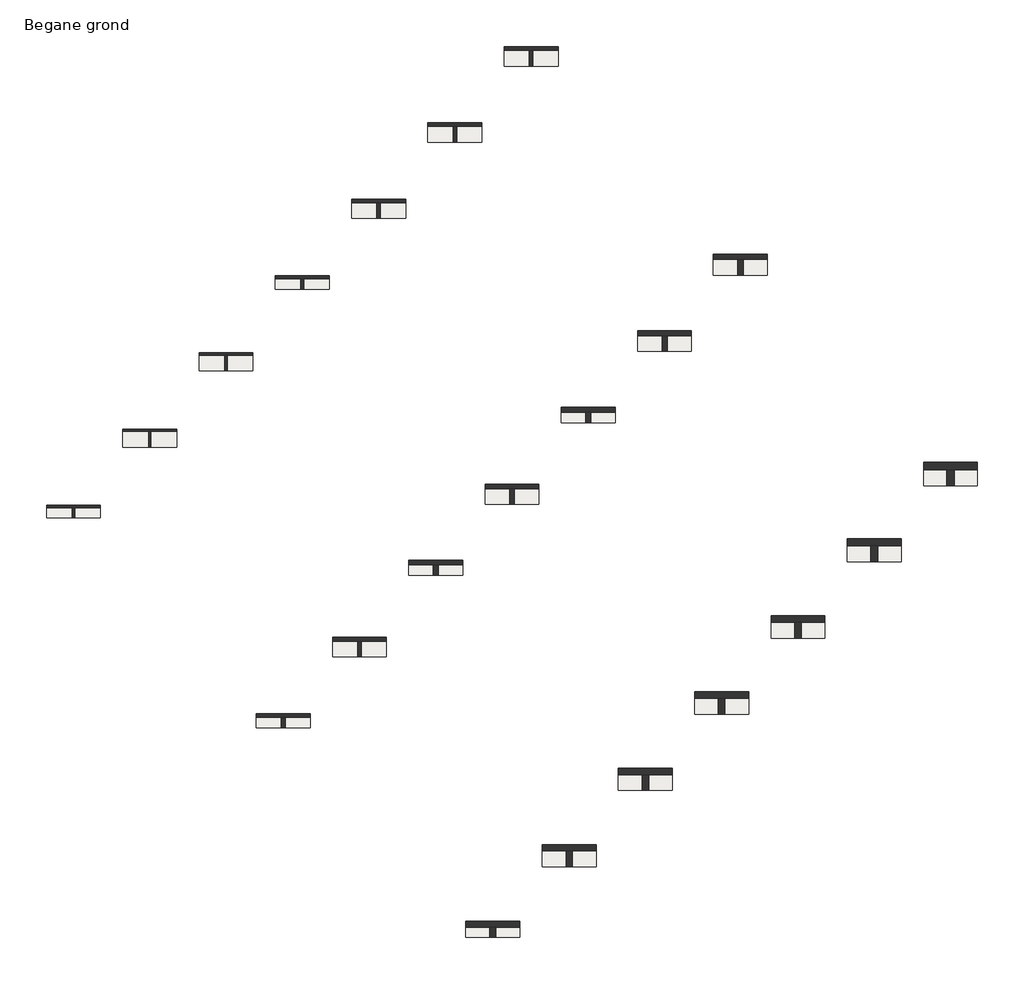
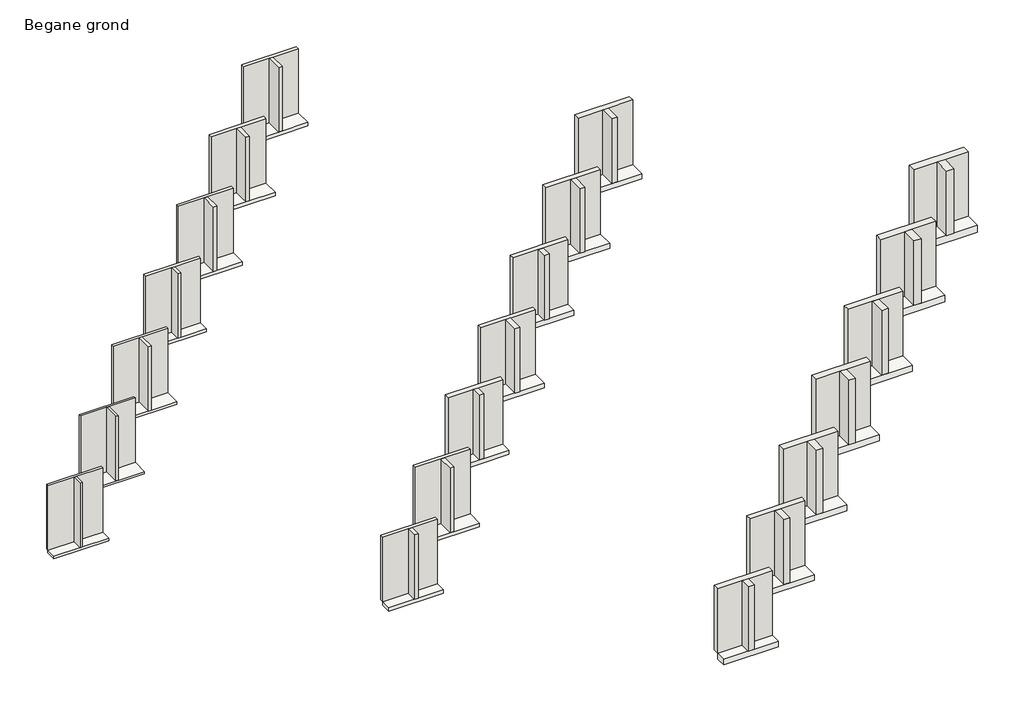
# One storey: 42 walls, 21 slabs.
"""IFC4 building model written with IfcOpenShell, lengths in millimetres."""

from ifc_helpers import new_model, si_unit, frame, origin, origin_with_axes, place, context, project, spatial, polyline, outline, extrude, element, save

model = new_model("IFC4")

# Units and contexts
model_context = context("Model", 3, world=origin())
ifc_project = project(units=[si_unit("LENGTHUNIT", "METRE", prefix="MILLI")], contexts=[model_context])

# Site, building, storey
site = spatial("IfcSite", under=ifc_project)
building = spatial("IfcBuilding", under=site)
storey = spatial("IfcBuildingStorey", under=building, Name="Begane grond", Elevation=0.0)

# Slabs
placement = place(None, origin())
element("IfcSlab", 1, ObjectType="NLRS_23_FL_Naturoll 035_90x380x7600mm", at=placement, inside=storey, context=model_context, shape_type="SweptSolid", body=[
    extrude(outline(polyline([(-2546.9892792, 4066.9143781), (-4546.9892792, 4066.9143781), (-4546.9892792, 4446.9143781), (-2546.9892792, 4446.9143781), (-2546.9892792, 4066.9143781)])), frame((0.0, 0.0, -90.0), z_axis=(0.0, 0.0, 1.0), x_axis=(1.0, 0.0, 0.0)), (0.0, 0.0, 1.0), 90.0),
])
element("IfcSlab", 2, ObjectType="NLRS_23_FL_Naturoll 035_90x580x7600mm", at=placement, inside=storey, context=model_context, shape_type="SweptSolid", body=[
    extrude(outline(polyline([(281.4378455, 6695.3415029), (-1718.5621545, 6695.3415029), (-1718.5621545, 7275.3415029), (281.4378455, 7275.3415029), (281.4378455, 6695.3415029)])), frame((0.0, 0.0, -90.0), z_axis=(0.0, 0.0, 1.0), x_axis=(1.0, 0.0, 0.0)), (0.0, 0.0, 1.0), 90.0),
])
element("IfcSlab", 3, ObjectType="NLRS_23_FL_Naturoll 035_100x580x7400mm", at=placement, inside=storey, context=model_context, shape_type="SweptSolid", body=[
    extrude(outline(polyline([(3109.8649703, 9523.7686276), (1109.8649703, 9523.7686276), (1109.8649703, 10103.7686276), (3109.8649703, 10103.7686276), (3109.8649703, 9523.7686276)])), frame((0.0, 0.0, -100.0), z_axis=(0.0, 0.0, 1.0), x_axis=(1.0, 0.0, 0.0)), (0.0, 0.0, 1.0), 100.0),
])
element("IfcSlab", 4, ObjectType="NLRS_23_FL_Naturoll 035_120x380x6200mm", at=placement, inside=storey, context=model_context, shape_type="SweptSolid", body=[
    extrude(outline(polyline([(5938.292095, 12552.1957524), (3938.292095, 12552.1957524), (3938.292095, 12932.1957524), (5938.292095, 12932.1957524), (5938.292095, 12552.1957524)])), frame((0.0, 0.0, -120.0), z_axis=(0.0, 0.0, 1.0), x_axis=(1.0, 0.0, 0.0)), (0.0, 0.0, 1.0), 120.0),
])
element("IfcSlab", 5, ObjectType="NLRS_23_FL_Naturoll 035_120x580x6200mm", at=placement, inside=storey, context=model_context, shape_type="SweptSolid", body=[
    extrude(outline(polyline([(8766.7192198, 15180.6228771), (6766.7192198, 15180.6228771), (6766.7192198, 15760.6228771), (8766.7192198, 15760.6228771), (8766.7192198, 15180.6228771)])), frame((0.0, 0.0, -120.0), z_axis=(0.0, 0.0, 1.0), x_axis=(1.0, 0.0, 0.0)), (0.0, 0.0, 1.0), 120.0),
])
element("IfcSlab", 6, ObjectType="NLRS_23_FL_Naturoll 035_130x590x5500mm", at=placement, inside=storey, context=model_context, shape_type="SweptSolid", body=[
    extrude(outline(polyline([(11595.1463445, 17999.0500019), (9595.1463445, 17999.0500019), (9595.1463445, 18589.0500019), (11595.1463445, 18589.0500019), (11595.1463445, 17999.0500019)])), frame((0.0, 0.0, -130.0), z_axis=(0.0, 0.0, 1.0), x_axis=(1.0, 0.0, 0.0)), (0.0, 0.0, 1.0), 130.0),
])
element("IfcSlab", 7, ObjectType="NLRS_23_FL_Naturoll 035_140x380x5300mm", at=placement, inside=storey, context=model_context, shape_type="SweptSolid", body=[
    extrude(outline(polyline([(5230.8651346, -3711.5803941), (3230.8651346, -3711.5803941), (3230.8651346, -3331.5803941), (5230.8651346, -3331.5803941), (5230.8651346, -3711.5803941)])), frame((0.0, 0.0, -140.0), z_axis=(0.0, 0.0, 1.0), x_axis=(1.0, 0.0, 0.0)), (0.0, 0.0, 1.0), 140.0),
])
element("IfcSlab", 8, ObjectType="NLRS_23_FL_Naturoll 035_140x580x5300mm", at=placement, inside=storey, context=model_context, shape_type="SweptSolid", body=[
    extrude(outline(polyline([(8059.2922594, -1083.1532694), (6059.2922594, -1083.1532694), (6059.2922594, -503.1532694), (8059.2922594, -503.1532694), (8059.2922594, -1083.1532694)])), frame((0.0, 0.0, -140.0), z_axis=(0.0, 0.0, 1.0), x_axis=(1.0, 0.0, 0.0)), (0.0, 0.0, 1.0), 140.0),
])
element("IfcSlab", 9, ObjectType="NLRS_23_FL_Naturoll 035_170x380x4350mm", at=placement, inside=storey, context=model_context, shape_type="SweptSolid", body=[
    extrude(outline(polyline([(10887.7193841, 1945.2738554), (8887.7193841, 1945.2738554), (8887.7193841, 2325.2738554), (10887.7193841, 2325.2738554), (10887.7193841, 1945.2738554)])), frame((0.0, 0.0, -170.0), z_axis=(0.0, 0.0, 1.0), x_axis=(1.0, 0.0, 0.0)), (0.0, 0.0, 1.0), 170.0),
])
element("IfcSlab", 10, ObjectType="NLRS_23_FL_Naturoll 035_170x580x4350mm", at=placement, inside=storey, context=model_context, shape_type="SweptSolid", body=[
    extrude(outline(polyline([(13716.1465089, 4573.7009801), (11716.1465089, 4573.7009801), (11716.1465089, 5153.7009801), (13716.1465089, 5153.7009801), (13716.1465089, 4573.7009801)])), frame((0.0, 0.0, -170.0), z_axis=(0.0, 0.0, 1.0), x_axis=(1.0, 0.0, 0.0)), (0.0, 0.0, 1.0), 170.0),
])
element("IfcSlab", 11, ObjectType="NLRS_23_FL_Naturoll 035_185x380x4000mm", at=placement, inside=storey, context=model_context, shape_type="SweptSolid", body=[
    extrude(outline(polyline([(16544.5736336, 7602.1281049), (14544.5736336, 7602.1281049), (14544.5736336, 7982.1281049), (16544.5736336, 7982.1281049), (16544.5736336, 7602.1281049)])), frame((0.0, 0.0, -185.0), z_axis=(0.0, 0.0, 1.0), x_axis=(1.0, 0.0, 0.0)), (0.0, 0.0, 1.0), 185.0),
])
element("IfcSlab", 12, ObjectType="NLRS_23_FL_Naturoll 035_200x580x3700mm", at=placement, inside=storey, context=model_context, shape_type="SweptSolid", body=[
    extrude(outline(polyline([(22189.3006542, 13077.6741056), (20189.3006542, 13077.6741056), (20189.3006542, 13657.6741056), (22189.3006542, 13657.6741056), (22189.3006542, 13077.6741056)])), frame((0.0, 0.0, -200.0), z_axis=(0.0, 0.0, 1.0), x_axis=(1.0, 0.0, 0.0)), (0.0, 0.0, 1.0), 200.0),
])
element("IfcSlab", 13, ObjectType="NLRS_23_FL_Naturoll 035_220x380x3400mm", at=placement, inside=storey, context=model_context, shape_type="SweptSolid", body=[
    extrude(outline(polyline([(13009.0397277, -11489.7549872), (11009.0397277, -11489.7549872), (11009.0397277, -11109.7549872), (13009.0397277, -11109.7549872), (13009.0397277, -11489.7549872)])), frame((0.0, 0.0, -220.0), z_axis=(0.0, 0.0, 1.0), x_axis=(1.0, 0.0, 0.0)), (0.0, 0.0, 1.0), 220.0),
])
element("IfcSlab", 14, ObjectType="NLRS_23_FL_Naturoll 035_220x580x3400mm", at=placement, inside=storey, context=model_context, shape_type="SweptSolid", body=[
    extrude(outline(polyline([(15837.4668524, -8861.3278624), (13837.4668524, -8861.3278624), (13837.4668524, -8281.3278624), (15837.4668524, -8281.3278624), (15837.4668524, -8861.3278624)])), frame((0.0, 0.0, -220.0), z_axis=(0.0, 0.0, 1.0), x_axis=(1.0, 0.0, 0.0)), (0.0, 0.0, 1.0), 220.0),
])
element("IfcSlab", 15, ObjectType="NLRS_23_FL_Naturoll 035_235x580x3100mm", at=placement, inside=storey, context=model_context, shape_type="SweptSolid", body=[
    extrude(outline(polyline([(18665.8939772, -6032.9007377), (16665.8939772, -6032.9007377), (16665.8939772, -5452.9007377), (18665.8939772, -5452.9007377), (18665.8939772, -6032.9007377)])), frame((0.0, 0.0, -235.0), z_axis=(0.0, 0.0, 1.0), x_axis=(1.0, 0.0, 0.0)), (0.0, 0.0, 1.0), 235.0),
])
element("IfcSlab", 16, ObjectType="NLRS_23_FL_Naturoll 035_240x580x3100mm", at=placement, inside=storey, context=model_context, shape_type="SweptSolid", body=[
    extrude(outline(polyline([(21494.3211019, -3204.4736129), (19494.3211019, -3204.4736129), (19494.3211019, -2624.4736129), (21494.3211019, -2624.4736129), (21494.3211019, -3204.4736129)])), frame((0.0, 0.0, -240.0), z_axis=(0.0, 0.0, 1.0), x_axis=(1.0, 0.0, 0.0)), (0.0, 0.0, 1.0), 240.0),
])
element("IfcSlab", 17, ObjectType="NLRS_23_FL_Naturoll 035_270x590x2600mm", at=placement, inside=storey, context=model_context, shape_type="SweptSolid", body=[
    extrude(outline(polyline([(29979.6024762, 5270.8077613), (27979.6024762, 5270.8077613), (27979.6024762, 5860.8077613), (29979.6024762, 5860.8077613), (29979.6024762, 5270.8077613)])), frame((0.0, 0.0, -270.0), z_axis=(0.0, 0.0, 1.0), x_axis=(1.0, 0.0, 0.0)), (0.0, 0.0, 1.0), 270.0),
])
element("IfcSlab", 18, ObjectType="NLRS_23_FL_Naturoll 035_185x580x4000mm", at=placement, inside=storey, context=model_context, shape_type="SweptSolid", body=[
    extrude(outline(polyline([(19373.0007584, 10245.5552296), (17373.0007584, 10245.5552296), (17373.0007584, 10825.5552296), (19373.0007584, 10825.5552296), (19373.0007584, 10245.5552296)])), frame((0.0, 0.0, -185.0), z_axis=(0.0, 0.0, 1.0), x_axis=(1.0, 0.0, 0.0)), (0.0, 0.0, 1.0), 185.0),
])
element("IfcSlab", 19, ObjectType="NLRS_23_FL_Naturoll 035_135x590x5300mm", at=placement, inside=storey, context=model_context, shape_type="SweptSolid", body=[
    extrude(outline(polyline([(14423.5734693, 20827.4771266), (12423.5734693, 20827.4771266), (12423.5734693, 21417.4771266), (14423.5734693, 21417.4771266), (14423.5734693, 20827.4771266)])), frame((0.0, 0.0, -135.0), z_axis=(0.0, 0.0, 1.0), x_axis=(1.0, 0.0, 0.0)), (0.0, 0.0, 1.0), 135.0),
])
element("IfcSlab", 20, ObjectType="NLRS_23_FL_Naturoll 035_260x590x2700mm", at=placement, inside=storey, context=model_context, shape_type="SweptSolid", body=[
    extrude(outline(polyline([(27151.1753514, 2442.3806366), (25151.1753514, 2442.3806366), (25151.1753514, 3032.3806366), (27151.1753514, 3032.3806366), (27151.1753514, 2442.3806366)])), frame((0.0, 0.0, -260.0), z_axis=(0.0, 0.0, 1.0), x_axis=(1.0, 0.0, 0.0)), (0.0, 0.0, 1.0), 260.0),
])
element("IfcSlab", 21, ObjectType="NLRS_23_FL_Naturoll 035_245x590x2600mm", at=placement, inside=storey, context=model_context, shape_type="SweptSolid", body=[
    extrude(outline(polyline([(24322.7482267, -386.0464882), (22322.7482267, -386.0464882), (22322.7482267, 203.9535118), (24322.7482267, 203.9535118), (24322.7482267, -386.0464882)])), frame((0.0, 0.0, -245.0), z_axis=(0.0, 0.0, 1.0), x_axis=(1.0, 0.0, 0.0)), (0.0, 0.0, 1.0), 245.0),
])

# Walls
element("IfcWall", 22, ObjectType="NLRS_21_WA_Naturoll 035_90x380x7600mm", at=placement, inside=storey, context=model_context, shape_type="SweptSolid", body=[
    extrude(outline(polyline([(-2546.9892792, 4446.9143781), (-4546.9892792, 4446.9143781), (-4546.9892792, 4536.9143781), (-2546.9892792, 4536.9143781), (-2546.9892792, 4446.9143781)])), origin_with_axes(), (0.0, 0.0, 1.0), 2500.0),
])
element("IfcWall", 23, ObjectType="NLRS_21_WA_Naturoll 035_90x380x7600mm", at=placement, inside=storey, context=model_context, shape_type="SweptSolid", body=[
    extrude(outline(polyline([(-3591.9892792, 4066.9143781), (-3591.9892792, 4446.9143781), (-3501.9892792, 4446.9143781), (-3501.9892792, 4066.9143781), (-3591.9892792, 4066.9143781)])), origin_with_axes(), (0.0, 0.0, 1.0), 2500.0),
])
element("IfcWall", 24, ObjectType="NLRS_21_WA_Naturoll 035_90x580x7600mm", at=placement, inside=storey, context=model_context, shape_type="SweptSolid", body=[
    extrude(outline(polyline([(281.4378455, 7275.3415029), (-1718.5621545, 7275.3415029), (-1718.5621545, 7365.3415029), (281.4378455, 7365.3415029), (281.4378455, 7275.3415029)])), origin_with_axes(), (0.0, 0.0, 1.0), 2500.0),
])
element("IfcWall", 25, ObjectType="NLRS_21_WA_Naturoll 035_90x580x7600mm", at=placement, inside=storey, context=model_context, shape_type="SweptSolid", body=[
    extrude(outline(polyline([(-763.5621545, 6695.3415029), (-763.5621545, 7275.3415029), (-673.5621545, 7275.3415029), (-673.5621545, 6695.3415029), (-763.5621545, 6695.3415029)])), origin_with_axes(), (0.0, 0.0, 1.0), 2500.0),
])
element("IfcWall", 26, ObjectType="NLRS_21_WA_Naturoll 035_100x580x7400mm", at=placement, inside=storey, context=model_context, shape_type="SweptSolid", body=[
    extrude(outline(polyline([(3109.8649703, 10103.7686276), (1109.8649703, 10103.7686276), (1109.8649703, 10203.7686276), (3109.8649703, 10203.7686276), (3109.8649703, 10103.7686276)])), origin_with_axes(), (0.0, 0.0, 1.0), 2500.0),
])
element("IfcWall", 27, ObjectType="NLRS_21_WA_Naturoll 035_100x580x7400mm", at=placement, inside=storey, context=model_context, shape_type="SweptSolid", body=[
    extrude(outline(polyline([(2059.8649703, 9523.7686276), (2059.8649703, 10103.7686276), (2159.8649703, 10103.7686276), (2159.8649703, 9523.7686276), (2059.8649703, 9523.7686276)])), origin_with_axes(), (0.0, 0.0, 1.0), 2500.0),
])
element("IfcWall", 28, ObjectType="NLRS_21_WA_Naturoll 035_120x380x6200mm", at=placement, inside=storey, context=model_context, shape_type="SweptSolid", body=[
    extrude(outline(polyline([(5938.292095, 12932.1957524), (3938.292095, 12932.1957524), (3938.292095, 13052.1957524), (5938.292095, 13052.1957524), (5938.292095, 12932.1957524)])), origin_with_axes(), (0.0, 0.0, 1.0), 2500.0),
])
element("IfcWall", 29, ObjectType="NLRS_21_WA_Naturoll 035_120x380x6200mm", at=placement, inside=storey, context=model_context, shape_type="SweptSolid", body=[
    extrude(outline(polyline([(4878.292095, 12552.1957524), (4878.292095, 12932.1957524), (4998.292095, 12932.1957524), (4998.292095, 12552.1957524), (4878.292095, 12552.1957524)])), origin_with_axes(), (0.0, 0.0, 1.0), 2500.0),
])
element("IfcWall", 30, ObjectType="NLRS_21_WA_Naturoll 035_120x580x6200mm", at=placement, inside=storey, context=model_context, shape_type="SweptSolid", body=[
    extrude(outline(polyline([(8766.7192198, 15760.6228771), (6766.7192198, 15760.6228771), (6766.7192198, 15880.6228771), (8766.7192198, 15880.6228771), (8766.7192198, 15760.6228771)])), origin_with_axes(), (0.0, 0.0, 1.0), 2500.0),
])
element("IfcWall", 31, ObjectType="NLRS_21_WA_Naturoll 035_120x580x6200mm", at=placement, inside=storey, context=model_context, shape_type="SweptSolid", body=[
    extrude(outline(polyline([(7706.7192198, 15180.6228771), (7706.7192198, 15760.6228771), (7826.7192198, 15760.6228771), (7826.7192198, 15180.6228771), (7706.7192198, 15180.6228771)])), origin_with_axes(), (0.0, 0.0, 1.0), 2500.0),
])
element("IfcWall", 32, ObjectType="NLRS_21_WA_Naturoll 035_130x590x5500mm", at=placement, inside=storey, context=model_context, shape_type="SweptSolid", body=[
    extrude(outline(polyline([(11595.1463445, 18589.0500019), (9595.1463445, 18589.0500019), (9595.1463445, 18719.0500019), (11595.1463445, 18719.0500019), (11595.1463445, 18589.0500019)])), origin_with_axes(), (0.0, 0.0, 1.0), 2500.0),
])
element("IfcWall", 33, ObjectType="NLRS_21_WA_Naturoll 035_130x590x5500mm", at=placement, inside=storey, context=model_context, shape_type="SweptSolid", body=[
    extrude(outline(polyline([(10530.1463445, 17999.0500019), (10530.1463445, 18589.0500019), (10660.1463445, 18589.0500019), (10660.1463445, 17999.0500019), (10530.1463445, 17999.0500019)])), origin_with_axes(), (0.0, 0.0, 1.0), 2500.0),
])
element("IfcWall", 34, ObjectType="NLRS_21_WA_Naturoll 035_140x380x5300mm", at=placement, inside=storey, context=model_context, shape_type="SweptSolid", body=[
    extrude(outline(polyline([(5230.8651346, -3331.5803941), (3230.8651346, -3331.5803941), (3230.8651346, -3191.5803941), (5230.8651346, -3191.5803941), (5230.8651346, -3331.5803941)])), origin_with_axes(), (0.0, 0.0, 1.0), 2500.0),
])
element("IfcWall", 35, ObjectType="NLRS_21_WA_Naturoll 035_140x380x5300mm", at=placement, inside=storey, context=model_context, shape_type="SweptSolid", body=[
    extrude(outline(polyline([(4160.8651346, -3711.5803941), (4160.8651346, -3331.5803941), (4300.8651346, -3331.5803941), (4300.8651346, -3711.5803941), (4160.8651346, -3711.5803941)])), origin_with_axes(), (0.0, 0.0, 1.0), 2500.0),
])
element("IfcWall", 36, ObjectType="NLRS_21_WA_Naturoll 035_140x580x5300mm", at=placement, inside=storey, context=model_context, shape_type="SweptSolid", body=[
    extrude(outline(polyline([(8059.2922594, -503.1532694), (6059.2922594, -503.1532694), (6059.2922594, -363.1532694), (8059.2922594, -363.1532694), (8059.2922594, -503.1532694)])), origin_with_axes(), (0.0, 0.0, 1.0), 2500.0),
])
element("IfcWall", 37, ObjectType="NLRS_21_WA_Naturoll 035_140x580x5300mm", at=placement, inside=storey, context=model_context, shape_type="SweptSolid", body=[
    extrude(outline(polyline([(6989.2922594, -1083.1532694), (6989.2922594, -503.1532694), (7129.2922594, -503.1532694), (7129.2922594, -1083.1532694), (6989.2922594, -1083.1532694)])), origin_with_axes(), (0.0, 0.0, 1.0), 2500.0),
])
element("IfcWall", 38, ObjectType="NLRS_21_WA_Naturoll 035_170x380x4350mm", at=placement, inside=storey, context=model_context, shape_type="SweptSolid", body=[
    extrude(outline(polyline([(10887.7193841, 2325.2738554), (8887.7193841, 2325.2738554), (8887.7193841, 2495.2738554), (10887.7193841, 2495.2738554), (10887.7193841, 2325.2738554)])), origin_with_axes(), (0.0, 0.0, 1.0), 2500.0),
])
element("IfcWall", 39, ObjectType="NLRS_21_WA_Naturoll 035_170x380x4350mm", at=placement, inside=storey, context=model_context, shape_type="SweptSolid", body=[
    extrude(outline(polyline([(9802.7193841, 1945.2738554), (9802.7193841, 2325.2738554), (9972.7193841, 2325.2738554), (9972.7193841, 1945.2738554), (9802.7193841, 1945.2738554)])), origin_with_axes(), (0.0, 0.0, 1.0), 2500.0),
])
element("IfcWall", 40, ObjectType="NLRS_21_WA_Naturoll 035_170x580x4350mm", at=placement, inside=storey, context=model_context, shape_type="SweptSolid", body=[
    extrude(outline(polyline([(13716.1465089, 5153.7009801), (11716.1465089, 5153.7009801), (11716.1465089, 5323.7009801), (13716.1465089, 5323.7009801), (13716.1465089, 5153.7009801)])), origin_with_axes(), (0.0, 0.0, 1.0), 2500.0),
])
element("IfcWall", 41, ObjectType="NLRS_21_WA_Naturoll 035_170x580x4350mm", at=placement, inside=storey, context=model_context, shape_type="SweptSolid", body=[
    extrude(outline(polyline([(12631.1465089, 4573.7009801), (12631.1465089, 5153.7009801), (12801.1465089, 5153.7009801), (12801.1465089, 4573.7009801), (12631.1465089, 4573.7009801)])), origin_with_axes(), (0.0, 0.0, 1.0), 2500.0),
])
element("IfcWall", 42, ObjectType="NLRS_21_WA_Naturoll 035_185x380x4000mm", at=placement, inside=storey, context=model_context, shape_type="SweptSolid", body=[
    extrude(outline(polyline([(16544.5736336, 7982.1281049), (14544.5736336, 7982.1281049), (14544.5736336, 8167.1281049), (16544.5736336, 8167.1281049), (16544.5736336, 7982.1281049)])), origin_with_axes(), (0.0, 0.0, 1.0), 2500.0),
])
element("IfcWall", 43, ObjectType="NLRS_21_WA_Naturoll 035_185x380x4000mm", at=placement, inside=storey, context=model_context, shape_type="SweptSolid", body=[
    extrude(outline(polyline([(15452.0736336, 7602.1281049), (15452.0736336, 7982.1281049), (15637.0736336, 7982.1281049), (15637.0736336, 7602.1281049), (15452.0736336, 7602.1281049)])), origin_with_axes(), (0.0, 0.0, 1.0), 2500.0),
])
element("IfcWall", 44, ObjectType="NLRS_21_WA_Naturoll 035_200x580x3700mm", at=placement, inside=storey, context=model_context, shape_type="SweptSolid", body=[
    extrude(outline(polyline([(22189.3006542, 13657.6741056), (20189.3006542, 13657.6741056), (20189.3006542, 13857.6741056), (22189.3006542, 13857.6741056), (22189.3006542, 13657.6741056)])), origin_with_axes(), (0.0, 0.0, 1.0), 2500.0),
])
element("IfcWall", 45, ObjectType="NLRS_21_WA_Naturoll 035_200x580x3700mm", at=placement, inside=storey, context=model_context, shape_type="SweptSolid", body=[
    extrude(outline(polyline([(21089.3006542, 13077.6741056), (21089.3006542, 13657.6741056), (21289.3006542, 13657.6741056), (21289.3006542, 13077.6741056), (21089.3006542, 13077.6741056)])), origin_with_axes(), (0.0, 0.0, 1.0), 2500.0),
])
element("IfcWall", 46, ObjectType="NLRS_21_WA_Naturoll 035_220x380x3400mm", at=placement, inside=storey, context=model_context, shape_type="SweptSolid", body=[
    extrude(outline(polyline([(13009.0397277, -11109.7549872), (11009.0397277, -11109.7549872), (11009.0397277, -10889.7549872), (13009.0397277, -10889.7549872), (13009.0397277, -11109.7549872)])), origin_with_axes(), (0.0, 0.0, 1.0), 2500.0),
])
element("IfcWall", 47, ObjectType="NLRS_21_WA_Naturoll 035_220x380x3400mm", at=placement, inside=storey, context=model_context, shape_type="SweptSolid", body=[
    extrude(outline(polyline([(11899.0397277, -11489.7549872), (11899.0397277, -11109.7549872), (12119.0397277, -11109.7549872), (12119.0397277, -11489.7549872), (11899.0397277, -11489.7549872)])), origin_with_axes(), (0.0, 0.0, 1.0), 2500.0),
])
element("IfcWall", 48, ObjectType="NLRS_21_WA_Naturoll 035_220x580x3400mm", at=placement, inside=storey, context=model_context, shape_type="SweptSolid", body=[
    extrude(outline(polyline([(15837.4668524, -8281.3278624), (13837.4668524, -8281.3278624), (13837.4668524, -8061.3278624), (15837.4668524, -8061.3278624), (15837.4668524, -8281.3278624)])), origin_with_axes(), (0.0, 0.0, 1.0), 2500.0),
])
element("IfcWall", 49, ObjectType="NLRS_21_WA_Naturoll 035_220x580x3400mm", at=placement, inside=storey, context=model_context, shape_type="SweptSolid", body=[
    extrude(outline(polyline([(14727.4668524, -8861.3278624), (14727.4668524, -8281.3278624), (14947.4668524, -8281.3278624), (14947.4668524, -8861.3278624), (14727.4668524, -8861.3278624)])), origin_with_axes(), (0.0, 0.0, 1.0), 2500.0),
])
element("IfcWall", 50, ObjectType="NLRS_21_WA_Naturoll 035_235x580x3100mm", at=placement, inside=storey, context=model_context, shape_type="SweptSolid", body=[
    extrude(outline(polyline([(18665.8939772, -5452.9007377), (16665.8939772, -5452.9007377), (16665.8939772, -5217.9007377), (18665.8939772, -5217.9007377), (18665.8939772, -5452.9007377)])), origin_with_axes(), (0.0, 0.0, 1.0), 2500.0),
])
element("IfcWall", 51, ObjectType="NLRS_21_WA_Naturoll 035_235x580x3100mm", at=placement, inside=storey, context=model_context, shape_type="SweptSolid", body=[
    extrude(outline(polyline([(17548.3939772, -6032.9007377), (17548.3939772, -5452.9007377), (17783.3939772, -5452.9007377), (17783.3939772, -6032.9007377), (17548.3939772, -6032.9007377)])), origin_with_axes(), (0.0, 0.0, 1.0), 2500.0),
])
element("IfcWall", 52, ObjectType="NLRS_21_WA_Naturoll 035_240x580x3100mm", at=placement, inside=storey, context=model_context, shape_type="SweptSolid", body=[
    extrude(outline(polyline([(21494.3211019, -2624.4736129), (19494.3211019, -2624.4736129), (19494.3211019, -2384.4736129), (21494.3211019, -2384.4736129), (21494.3211019, -2624.4736129)])), origin_with_axes(), (0.0, 0.0, 1.0), 2500.0),
])
element("IfcWall", 53, ObjectType="NLRS_21_WA_Naturoll 035_240x580x3100mm", at=placement, inside=storey, context=model_context, shape_type="SweptSolid", body=[
    extrude(outline(polyline([(20374.3211019, -3204.4736129), (20374.3211019, -2624.4736129), (20614.3211019, -2624.4736129), (20614.3211019, -3204.4736129), (20374.3211019, -3204.4736129)])), origin_with_axes(), (0.0, 0.0, 1.0), 2500.0),
])
element("IfcWall", 54, ObjectType="NLRS_21_WA_Naturoll 035_270x590x2600mm", at=placement, inside=storey, context=model_context, shape_type="SweptSolid", body=[
    extrude(outline(polyline([(29979.6024762, 5860.8077613), (27979.6024762, 5860.8077613), (27979.6024762, 6130.8077613), (29979.6024762, 6130.8077613), (29979.6024762, 5860.8077613)])), origin_with_axes(), (0.0, 0.0, 1.0), 2500.0),
])
element("IfcWall", 55, ObjectType="NLRS_21_WA_Naturoll 035_270x590x2600mm", at=placement, inside=storey, context=model_context, shape_type="SweptSolid", body=[
    extrude(outline(polyline([(28844.6024762, 5270.8077613), (28844.6024762, 5860.8077613), (29114.6024762, 5860.8077613), (29114.6024762, 5270.8077613), (28844.6024762, 5270.8077613)])), origin_with_axes(), (0.0, 0.0, 1.0), 2500.0),
])
element("IfcWall", 56, ObjectType="NLRS_21_WA_Naturoll 035_185x580x4000mm", at=placement, inside=storey, context=model_context, shape_type="SweptSolid", body=[
    extrude(outline(polyline([(19373.0007584, 10825.5552296), (17373.0007584, 10825.5552296), (17373.0007584, 11010.5552296), (19373.0007584, 11010.5552296), (19373.0007584, 10825.5552296)])), origin_with_axes(), (0.0, 0.0, 1.0), 2500.0),
])
element("IfcWall", 57, ObjectType="NLRS_21_WA_Naturoll 035_185x580x4000mm", at=placement, inside=storey, context=model_context, shape_type="SweptSolid", body=[
    extrude(outline(polyline([(18280.5007584, 10245.5552296), (18280.5007584, 10825.5552296), (18465.5007584, 10825.5552296), (18465.5007584, 10245.5552296), (18280.5007584, 10245.5552296)])), origin_with_axes(), (0.0, 0.0, 1.0), 2500.0),
])
element("IfcWall", 58, ObjectType="NLRS_21_WA_Naturoll 035_135x590x5300mm", at=placement, inside=storey, context=model_context, shape_type="SweptSolid", body=[
    extrude(outline(polyline([(14423.5734693, 21417.4771266), (12423.5734693, 21417.4771266), (12423.5734693, 21552.4771266), (14423.5734693, 21552.4771266), (14423.5734693, 21417.4771266)])), origin_with_axes(), (0.0, 0.0, 1.0), 2500.0),
])
element("IfcWall", 59, ObjectType="NLRS_21_WA_Naturoll 035_135x590x5300mm", at=placement, inside=storey, context=model_context, shape_type="SweptSolid", body=[
    extrude(outline(polyline([(13356.0734693, 20827.4771266), (13356.0734693, 21417.4771266), (13491.0734693, 21417.4771266), (13491.0734693, 20827.4771266), (13356.0734693, 20827.4771266)])), origin_with_axes(), (0.0, 0.0, 1.0), 2500.0),
])
element("IfcWall", 60, ObjectType="NLRS_21_WA_Naturoll 035_260x590x2700mm", at=placement, inside=storey, context=model_context, shape_type="SweptSolid", body=[
    extrude(outline(polyline([(27151.1753514, 3032.3806366), (25151.1753514, 3032.3806366), (25151.1753514, 3292.3806366), (27151.1753514, 3292.3806366), (27151.1753514, 3032.3806366)])), origin_with_axes(), (0.0, 0.0, 1.0), 2500.0),
])
element("IfcWall", 61, ObjectType="NLRS_21_WA_Naturoll 035_260x590x2700mm", at=placement, inside=storey, context=model_context, shape_type="SweptSolid", body=[
    extrude(outline(polyline([(26021.1753514, 2442.3806366), (26021.1753514, 3032.3806366), (26281.1753514, 3032.3806366), (26281.1753514, 2442.3806366), (26021.1753514, 2442.3806366)])), origin_with_axes(), (0.0, 0.0, 1.0), 2500.0),
])
element("IfcWall", 62, ObjectType="NLRS_21_WA_Naturoll 035_245x590x2600mm", at=placement, inside=storey, context=model_context, shape_type="SweptSolid", body=[
    extrude(outline(polyline([(24322.7482267, 203.9535118), (22322.7482267, 203.9535118), (22322.7482267, 448.9535118), (24322.7482267, 448.9535118), (24322.7482267, 203.9535118)])), origin_with_axes(), (0.0, 0.0, 1.0), 2500.0),
])
element("IfcWall", 63, ObjectType="NLRS_21_WA_Naturoll 035_245x590x2600mm", at=placement, inside=storey, context=model_context, shape_type="SweptSolid", body=[
    extrude(outline(polyline([(23200.2482267, -386.0464882), (23200.2482267, 203.9535118), (23445.2482267, 203.9535118), (23445.2482267, -386.0464882), (23200.2482267, -386.0464882)])), origin_with_axes(), (0.0, 0.0, 1.0), 2500.0),
])

save(model, "model.ifc")
